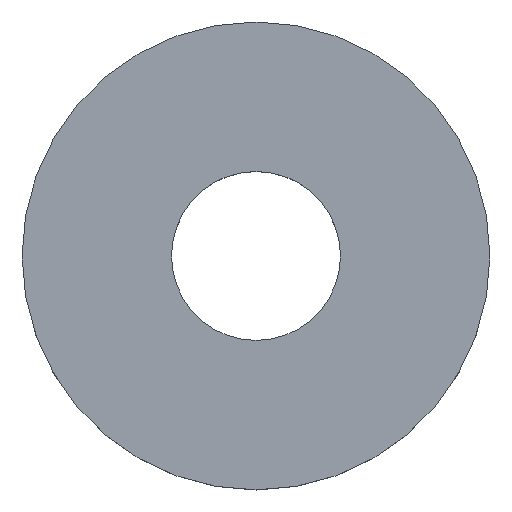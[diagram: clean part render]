
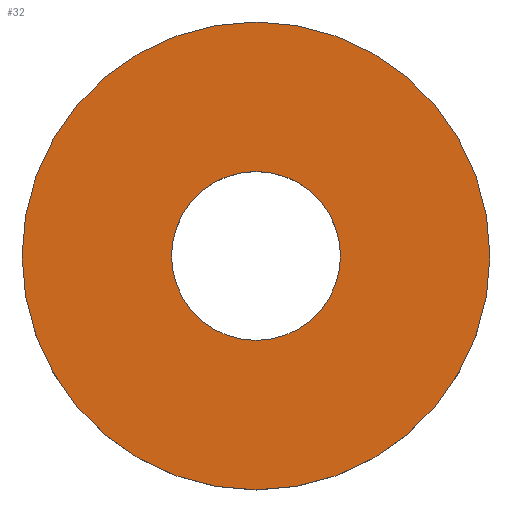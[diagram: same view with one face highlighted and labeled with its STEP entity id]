
A CAD part, top view. The second image highlights one B-rep face of the part: STEP entity #32.
In plain terms, the highlighted planar face has unit normal (0, 0, 1).
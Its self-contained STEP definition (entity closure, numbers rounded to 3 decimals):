
#32 = ADVANCED_FACE( '', ( #61, #62 ), #63, .F. );
#61 = FACE_BOUND( '', #84, .T. );
#62 = FACE_OUTER_BOUND( '', #85, .T. );
#63 = PLANE( '', #86 );
#84 = EDGE_LOOP( '', ( #105 ) );
#85 = EDGE_LOOP( '', ( #106 ) );
#86 = AXIS2_PLACEMENT_3D( '', #107, #108, #109 );
#105 = ORIENTED_EDGE( '', *, *, #120, .T. );
#106 = ORIENTED_EDGE( '', *, *, #117, .F. );
#107 = CARTESIAN_POINT( '', ( 0., 0., 2.5 ) );
#108 = DIRECTION( '', ( 0., 0., -1. ) );
#109 = DIRECTION( '', ( -1., 0., 0. ) );
#117 = EDGE_CURVE( '', #125, #125, #126, .T. );
#120 = EDGE_CURVE( '', #130, #130, #131, .T. );
#125 = VERTEX_POINT( '', #137 );
#126 = CIRCLE( '', #138, 9. );
#130 = VERTEX_POINT( '', #142 );
#131 = CIRCLE( '', #143, 3.25 );
#137 = CARTESIAN_POINT( '', ( 9., 0., 2.5 ) );
#138 = AXIS2_PLACEMENT_3D( '', #148, #149, #150 );
#142 = CARTESIAN_POINT( '', ( 3.25, 0., 2.5 ) );
#143 = AXIS2_PLACEMENT_3D( '', #154, #155, #156 );
#148 = CARTESIAN_POINT( '', ( 0., 0., 2.5 ) );
#149 = DIRECTION( '', ( 0., 0., -1. ) );
#150 = DIRECTION( '', ( 1., 0., 0. ) );
#154 = CARTESIAN_POINT( '', ( 0., 0., 2.5 ) );
#155 = DIRECTION( '', ( 0., 0., -1. ) );
#156 = DIRECTION( '', ( 1., 0., 0. ) );
